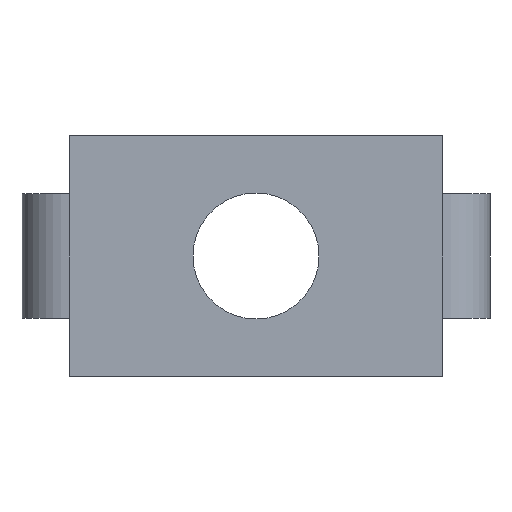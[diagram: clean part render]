
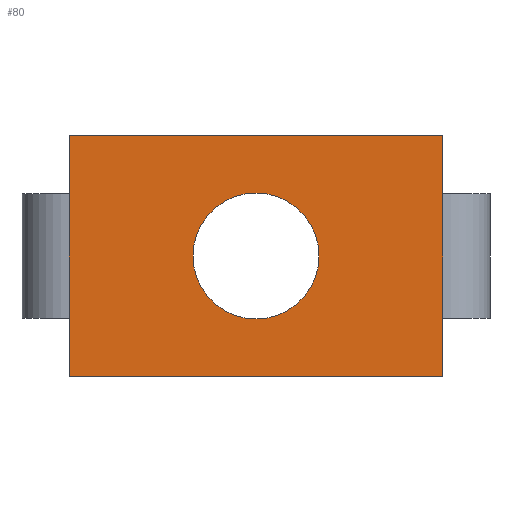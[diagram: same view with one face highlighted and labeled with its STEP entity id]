
A CAD part, front view. The second image highlights one B-rep face of the part: STEP entity #80.
In plain terms, the highlighted planar face has unit normal (0, -1, 0).
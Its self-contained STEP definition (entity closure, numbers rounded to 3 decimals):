
#12 = DIRECTION ( 'NONE',  ( 0., 1., 0. ) ) ;
#14 = CARTESIAN_POINT ( 'NONE',  ( -12., -1.5, 7.75 ) ) ;
#17 = VERTEX_POINT ( 'NONE', #565 ) ;
#24 = CIRCLE ( 'NONE', #401, 4.05 ) ;
#30 = EDGE_CURVE ( 'NONE', #870, #851, #136, .T. ) ;
#32 = ORIENTED_EDGE ( 'NONE', *, *, #873, .T. ) ;
#34 = CARTESIAN_POINT ( 'NONE',  ( 12., -1.5, 7.75 ) ) ;
#38 = DIRECTION ( 'NONE',  ( 0., 0., -1. ) ) ;
#39 = VERTEX_POINT ( 'NONE', #166 ) ;
#48 = DIRECTION ( 'NONE',  ( 0., 0., 1. ) ) ;
#49 = ORIENTED_EDGE ( 'NONE', *, *, #393, .F. ) ;
#55 = VERTEX_POINT ( 'NONE', #676 ) ;
#79 = FACE_OUTER_BOUND ( 'NONE', #294, .T. ) ;
#80 = ADVANCED_FACE ( 'NONE', ( #290, #79 ), #638, .T. ) ;
#82 = ORIENTED_EDGE ( 'NONE', *, *, #357, .F. ) ;
#89 = VERTEX_POINT ( 'NONE', #543 ) ;
#90 = DIRECTION ( 'NONE',  ( 0., 0., 1. ) ) ;
#102 = DIRECTION ( 'NONE',  ( -1., 0., 0. ) ) ;
#116 = AXIS2_PLACEMENT_3D ( 'NONE', #668, #12, #287 ) ;
#131 = DIRECTION ( 'NONE',  ( 0., 0., -1. ) ) ;
#136 = LINE ( 'NONE', #210, #301 ) ;
#166 = CARTESIAN_POINT ( 'NONE',  ( 0., -1.5, -4.05 ) ) ;
#170 = DIRECTION ( 'NONE',  ( 0., 0., 1. ) ) ;
#174 = LINE ( 'NONE', #450, #554 ) ;
#178 = CARTESIAN_POINT ( 'NONE',  ( -12., -1.5, 7.75 ) ) ;
#191 = VERTEX_POINT ( 'NONE', #14 ) ;
#198 = LINE ( 'NONE', #903, #385 ) ;
#200 = CARTESIAN_POINT ( 'NONE',  ( 12., -1.5, 7.75 ) ) ;
#210 = CARTESIAN_POINT ( 'NONE',  ( 12., -1.5, 0. ) ) ;
#253 = DIRECTION ( 'NONE',  ( 0., 0., 1. ) ) ;
#263 = LINE ( 'NONE', #34, #428 ) ;
#272 = VECTOR ( 'NONE', #253, 1000. ) ;
#278 = EDGE_LOOP ( 'NONE', ( #806, #32 ) ) ;
#286 = ORIENTED_EDGE ( 'NONE', *, *, #588, .F. ) ;
#287 = DIRECTION ( 'NONE',  ( 0., 0., 1. ) ) ;
#290 = FACE_BOUND ( 'NONE', #278, .T. ) ;
#294 = EDGE_LOOP ( 'NONE', ( #477, #598, #286, #571, #82, #663, #49, #720 ) ) ;
#298 = CARTESIAN_POINT ( 'NONE',  ( -12., -1.5, -7.75 ) ) ;
#301 = VECTOR ( 'NONE', #824, 1000. ) ;
#303 = EDGE_CURVE ( 'NONE', #89, #883, #468, .T. ) ;
#322 = CARTESIAN_POINT ( 'NONE',  ( -12., -1.5, 7.75 ) ) ;
#323 = VECTOR ( 'NONE', #48, 1000. ) ;
#329 = DIRECTION ( 'NONE',  ( 0., 0., -1. ) ) ;
#357 = EDGE_CURVE ( 'NONE', #883, #191, #592, .T. ) ;
#385 = VECTOR ( 'NONE', #170, 1000. ) ;
#391 = CARTESIAN_POINT ( 'NONE',  ( -12., -1.5, 0. ) ) ;
#393 = EDGE_CURVE ( 'NONE', #612, #89, #198, .T. ) ;
#401 = AXIS2_PLACEMENT_3D ( 'NONE', #814, #756, #90 ) ;
#402 = DIRECTION ( 'NONE',  ( 1., 0., 0. ) ) ;
#428 = VECTOR ( 'NONE', #38, 1000. ) ;
#446 = LINE ( 'NONE', #200, #767 ) ;
#450 = CARTESIAN_POINT ( 'NONE',  ( -12., -1.5, -7.75 ) ) ;
#468 = LINE ( 'NONE', #391, #323 ) ;
#475 = DIRECTION ( 'NONE',  ( 0., -1., 0. ) ) ;
#477 = ORIENTED_EDGE ( 'NONE', *, *, #677, .F. ) ;
#543 = CARTESIAN_POINT ( 'NONE',  ( -12., -1.5, -4. ) ) ;
#554 = VECTOR ( 'NONE', #102, 1000. ) ;
#565 = CARTESIAN_POINT ( 'NONE',  ( 0., -1.5, 4.05 ) ) ;
#571 = ORIENTED_EDGE ( 'NONE', *, *, #869, .F. ) ;
#588 = EDGE_CURVE ( 'NONE', #709, #851, #446, .T. ) ;
#589 = CIRCLE ( 'NONE', #116, 4.05 ) ;
#592 = LINE ( 'NONE', #178, #272 ) ;
#593 = CARTESIAN_POINT ( 'NONE',  ( 12., -1.5, 7.75 ) ) ;
#595 = AXIS2_PLACEMENT_3D ( 'NONE', #633, #475, #131 ) ;
#598 = ORIENTED_EDGE ( 'NONE', *, *, #30, .T. ) ;
#609 = EDGE_CURVE ( 'NONE', #17, #39, #24, .T. ) ;
#612 = VERTEX_POINT ( 'NONE', #298 ) ;
#633 = CARTESIAN_POINT ( 'NONE',  ( 0., -1.5, 0. ) ) ;
#638 = PLANE ( 'NONE',  #595 ) ;
#643 = EDGE_CURVE ( 'NONE', #55, #612, #174, .T. ) ;
#663 = ORIENTED_EDGE ( 'NONE', *, *, #303, .F. ) ;
#668 = CARTESIAN_POINT ( 'NONE',  ( 0., -1.5, 0. ) ) ;
#676 = CARTESIAN_POINT ( 'NONE',  ( 12., -1.5, -7.75 ) ) ;
#677 = EDGE_CURVE ( 'NONE', #870, #55, #263, .T. ) ;
#688 = CARTESIAN_POINT ( 'NONE',  ( 12., -1.5, 4. ) ) ;
#709 = VERTEX_POINT ( 'NONE', #593 ) ;
#720 = ORIENTED_EDGE ( 'NONE', *, *, #643, .F. ) ;
#730 = CARTESIAN_POINT ( 'NONE',  ( -12., -1.5, 4. ) ) ;
#752 = LINE ( 'NONE', #322, #791 ) ;
#756 = DIRECTION ( 'NONE',  ( 0., 1., 0. ) ) ;
#767 = VECTOR ( 'NONE', #329, 1000. ) ;
#791 = VECTOR ( 'NONE', #402, 1000. ) ;
#806 = ORIENTED_EDGE ( 'NONE', *, *, #609, .T. ) ;
#814 = CARTESIAN_POINT ( 'NONE',  ( 0., -1.5, 0. ) ) ;
#824 = DIRECTION ( 'NONE',  ( 0., 0., 1. ) ) ;
#851 = VERTEX_POINT ( 'NONE', #688 ) ;
#869 = EDGE_CURVE ( 'NONE', #191, #709, #752, .T. ) ;
#870 = VERTEX_POINT ( 'NONE', #919 ) ;
#873 = EDGE_CURVE ( 'NONE', #39, #17, #589, .T. ) ;
#883 = VERTEX_POINT ( 'NONE', #730 ) ;
#903 = CARTESIAN_POINT ( 'NONE',  ( -12., -1.5, 7.75 ) ) ;
#919 = CARTESIAN_POINT ( 'NONE',  ( 12., -1.5, -4. ) ) ;
